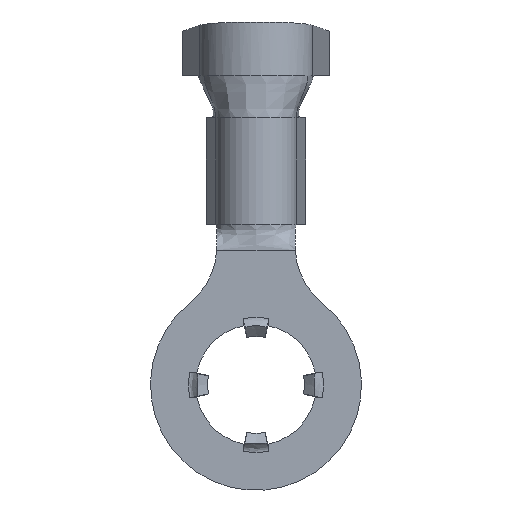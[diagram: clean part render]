
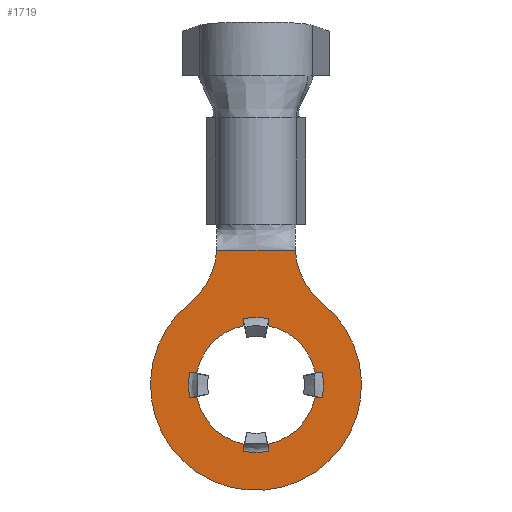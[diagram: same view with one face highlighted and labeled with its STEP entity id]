
A CAD part, front view. The second image highlights one B-rep face of the part: STEP entity #1719.
In plain terms, the highlighted planar face has unit normal (0, -1, 0).
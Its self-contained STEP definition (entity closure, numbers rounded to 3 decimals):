
#9=CARTESIAN_POINT('',(-2.357,-2.05,-10.55));
#10=CARTESIAN_POINT('',(-2.414,-2.05,-10.846));
#11=CARTESIAN_POINT('',(-2.414,-2.05,-11.154));
#12=CARTESIAN_POINT('',(-2.357,-2.05,-11.45));
#14=DIRECTION('',(-1.,0.,0.));
#15=VECTOR('',#14,0.255);
#16=CARTESIAN_POINT('',(-2.102,-2.05,-11.45));
#17=LINE('',#16,#15);
#18=CARTESIAN_POINT('',(0.,-2.05,-11.));
#19=DIRECTION('',(0.,-1.,0.));
#20=DIRECTION('',(-0.978,0.,-0.209));
#21=AXIS2_PLACEMENT_3D('',#18,#19,#20);
#23=DIRECTION('',(0.,0.,1.));
#24=VECTOR('',#23,0.255);
#25=CARTESIAN_POINT('',(-0.45,-2.05,-13.357));
#26=LINE('',#25,#24);
#27=CARTESIAN_POINT('',(-0.45,-2.05,-13.357));
#28=CARTESIAN_POINT('',(-0.154,-2.05,-13.414));
#29=CARTESIAN_POINT('',(0.154,-2.05,-13.414));
#30=CARTESIAN_POINT('',(0.45,-2.05,-13.357));
#32=DIRECTION('',(0.,0.,-1.));
#33=VECTOR('',#32,0.255);
#34=CARTESIAN_POINT('',(0.45,-2.05,-13.102));
#35=LINE('',#34,#33);
#36=CARTESIAN_POINT('',(0.,-2.05,-11.));
#37=DIRECTION('',(0.,-1.,0.));
#38=DIRECTION('',(0.209,0.,-0.978));
#39=AXIS2_PLACEMENT_3D('',#36,#37,#38);
#41=DIRECTION('',(-1.,0.,0.));
#42=VECTOR('',#41,0.255);
#43=CARTESIAN_POINT('',(2.357,-2.05,-11.45));
#44=LINE('',#43,#42);
#45=CARTESIAN_POINT('',(2.357,-2.05,-11.45));
#46=CARTESIAN_POINT('',(2.414,-2.05,-11.154));
#47=CARTESIAN_POINT('',(2.414,-2.05,-10.846));
#48=CARTESIAN_POINT('',(2.357,-2.05,-10.55));
#50=DIRECTION('',(1.,0.,0.));
#51=VECTOR('',#50,0.255);
#52=CARTESIAN_POINT('',(2.102,-2.05,-10.55));
#53=LINE('',#52,#51);
#54=CARTESIAN_POINT('',(0.,-2.05,-11.));
#55=DIRECTION('',(0.,-1.,0.));
#56=DIRECTION('',(0.978,0.,0.209));
#57=AXIS2_PLACEMENT_3D('',#54,#55,#56);
#59=DIRECTION('',(0.,0.,-1.));
#60=VECTOR('',#59,0.255);
#61=CARTESIAN_POINT('',(0.45,-2.05,-8.643));
#62=LINE('',#61,#60);
#63=CARTESIAN_POINT('',(0.45,-2.05,-8.643));
#64=CARTESIAN_POINT('',(0.154,-2.05,-8.586));
#65=CARTESIAN_POINT('',(-0.154,-2.05,-8.586));
#66=CARTESIAN_POINT('',(-0.45,-2.05,-8.643));
#68=DIRECTION('',(0.,0.,1.));
#69=VECTOR('',#68,0.255);
#70=CARTESIAN_POINT('',(-0.45,-2.05,-8.898));
#71=LINE('',#70,#69);
#72=CARTESIAN_POINT('',(0.,-2.05,-11.));
#73=DIRECTION('',(0.,-1.,0.));
#74=DIRECTION('',(-0.209,0.,0.978));
#75=AXIS2_PLACEMENT_3D('',#72,#73,#74);
#77=DIRECTION('',(1.,0.,0.));
#78=VECTOR('',#77,0.255);
#79=CARTESIAN_POINT('',(-2.357,-2.05,-10.55));
#80=LINE('',#79,#78);
#81=CARTESIAN_POINT('',(3.9,-2.05,-6.116));
#82=DIRECTION('',(0.,-1.,0.));
#83=DIRECTION('',(-0.999,0.,-0.04));
#84=AXIS2_PLACEMENT_3D('',#81,#82,#83);
#86=CARTESIAN_POINT('',(0.,-2.05,-11.));
#87=DIRECTION('',(0.,1.,0.));
#88=DIRECTION('',(0.624,0.,0.781));
#89=AXIS2_PLACEMENT_3D('',#86,#87,#88);
#91=CARTESIAN_POINT('',(-3.9,-2.05,-6.116));
#92=DIRECTION('',(0.,-1.,0.));
#93=DIRECTION('',(0.624,0.,-0.781));
#94=AXIS2_PLACEMENT_3D('',#91,#92,#93);
#96=DIRECTION('',(1.,0.,0.));
#97=VECTOR('',#96,2.804);
#98=CARTESIAN_POINT('',(-1.402,-2.05,-6.216));
#99=LINE('',#98,#97);
#1390=CARTESIAN_POINT('',(2.34,-2.05,-8.07));
#1391=CARTESIAN_POINT('',(-2.34,-2.05,-8.07));
#1392=VERTEX_POINT('',#1390);
#1393=VERTEX_POINT('',#1391);
#1398=CARTESIAN_POINT('',(1.402,-2.05,-6.216));
#1399=VERTEX_POINT('',#1398);
#1400=CARTESIAN_POINT('',(-1.402,-2.05,-6.216));
#1401=VERTEX_POINT('',#1400);
#1545=CARTESIAN_POINT('',(0.45,-2.05,-13.102));
#1546=CARTESIAN_POINT('',(0.45,-2.05,-13.357));
#1547=VERTEX_POINT('',#1545);
#1548=VERTEX_POINT('',#1546);
#1549=CARTESIAN_POINT('',(-0.45,-2.05,-13.357));
#1550=CARTESIAN_POINT('',(-0.45,-2.05,-13.102));
#1551=VERTEX_POINT('',#1549);
#1552=VERTEX_POINT('',#1550);
#1553=CARTESIAN_POINT('',(-2.102,-2.05,-11.45));
#1554=CARTESIAN_POINT('',(-2.357,-2.05,-11.45));
#1555=VERTEX_POINT('',#1553);
#1556=VERTEX_POINT('',#1554);
#1557=CARTESIAN_POINT('',(-2.357,-2.05,-10.55));
#1558=CARTESIAN_POINT('',(-2.102,-2.05,-10.55));
#1559=VERTEX_POINT('',#1557);
#1560=VERTEX_POINT('',#1558);
#1561=CARTESIAN_POINT('',(2.102,-2.05,-10.55));
#1562=CARTESIAN_POINT('',(2.357,-2.05,-10.55));
#1563=VERTEX_POINT('',#1561);
#1564=VERTEX_POINT('',#1562);
#1565=CARTESIAN_POINT('',(2.357,-2.05,-11.45));
#1566=CARTESIAN_POINT('',(2.102,-2.05,-11.45));
#1567=VERTEX_POINT('',#1565);
#1568=VERTEX_POINT('',#1566);
#1593=CARTESIAN_POINT('',(0.45,-2.05,-8.898));
#1595=VERTEX_POINT('',#1593);
#1597=CARTESIAN_POINT('',(-0.45,-2.05,-8.898));
#1599=VERTEX_POINT('',#1597);
#1605=VERTEX_POINT('',#63);
#1606=VERTEX_POINT('',#66);
#1671=CARTESIAN_POINT('',(0.,-2.05,-11.));
#1672=DIRECTION('',(0.,1.,0.));
#1673=DIRECTION('',(0.,0.,-1.));
#1674=AXIS2_PLACEMENT_3D('',#1671,#1672,#1673);
#1675=PLANE('',#1674);
#1677=ORIENTED_EDGE('',*,*,#1676,.T.);
#1679=ORIENTED_EDGE('',*,*,#1678,.T.);
#1681=ORIENTED_EDGE('',*,*,#1680,.T.);
#1683=ORIENTED_EDGE('',*,*,#1682,.T.);
#1684=EDGE_LOOP('',(#1677,#1679,#1681,#1683));
#1685=FACE_OUTER_BOUND('',#1684,.F.);
#1687=ORIENTED_EDGE('',*,*,#1686,.T.);
#1689=ORIENTED_EDGE('',*,*,#1688,.F.);
#1691=ORIENTED_EDGE('',*,*,#1690,.T.);
#1693=ORIENTED_EDGE('',*,*,#1692,.F.);
#1694=ORIENTED_EDGE('',*,*,#1660,.T.);
#1696=ORIENTED_EDGE('',*,*,#1695,.F.);
#1698=ORIENTED_EDGE('',*,*,#1697,.T.);
#1700=ORIENTED_EDGE('',*,*,#1699,.F.);
#1702=ORIENTED_EDGE('',*,*,#1701,.T.);
#1704=ORIENTED_EDGE('',*,*,#1703,.F.);
#1706=ORIENTED_EDGE('',*,*,#1705,.T.);
#1708=ORIENTED_EDGE('',*,*,#1707,.F.);
#1710=ORIENTED_EDGE('',*,*,#1709,.T.);
#1712=ORIENTED_EDGE('',*,*,#1711,.F.);
#1714=ORIENTED_EDGE('',*,*,#1713,.T.);
#1716=ORIENTED_EDGE('',*,*,#1715,.F.);
#1717=EDGE_LOOP('',(#1687,#1689,#1691,#1693,#1694,#1696,#1698,#1700,#1702,#1704,
#1706,#1708,#1710,#1712,#1714,#1716));
#1718=FACE_BOUND('',#1717,.F.);
#1719=ADVANCED_FACE('',(#1685,#1718),#1675,.F.);
#13=B_SPLINE_CURVE_WITH_KNOTS('',3,(#9,#10,#11,#12),.UNSPECIFIED.,.F.,.F.,(4,4),
(0.,1.),.UNSPECIFIED.);
#22=CIRCLE('',#21,2.15);
#31=B_SPLINE_CURVE_WITH_KNOTS('',3,(#27,#28,#29,#30),.UNSPECIFIED.,.F.,.F.,(4,
4),(0.,1.),.UNSPECIFIED.);
#40=CIRCLE('',#39,2.15);
#49=B_SPLINE_CURVE_WITH_KNOTS('',3,(#45,#46,#47,#48),.UNSPECIFIED.,.F.,.F.,(4,
4),(0.,1.),.UNSPECIFIED.);
#58=CIRCLE('',#57,2.15);
#67=B_SPLINE_CURVE_WITH_KNOTS('',3,(#63,#64,#65,#66),.UNSPECIFIED.,.F.,.F.,(4,
4),(0.,1.),.UNSPECIFIED.);
#76=CIRCLE('',#75,2.15);
#85=CIRCLE('',#84,2.5);
#90=CIRCLE('',#89,3.75);
#95=CIRCLE('',#94,2.5);
#1660=EDGE_CURVE('',#1551,#1548,#31,.T.);
#1676=EDGE_CURVE('',#1399,#1392,#85,.T.);
#1678=EDGE_CURVE('',#1392,#1393,#90,.T.);
#1680=EDGE_CURVE('',#1393,#1401,#95,.T.);
#1682=EDGE_CURVE('',#1401,#1399,#99,.T.);
#1686=EDGE_CURVE('',#1559,#1556,#13,.T.);
#1688=EDGE_CURVE('',#1555,#1556,#17,.T.);
#1690=EDGE_CURVE('',#1555,#1552,#22,.T.);
#1692=EDGE_CURVE('',#1551,#1552,#26,.T.);
#1695=EDGE_CURVE('',#1547,#1548,#35,.T.);
#1697=EDGE_CURVE('',#1547,#1568,#40,.T.);
#1699=EDGE_CURVE('',#1567,#1568,#44,.T.);
#1701=EDGE_CURVE('',#1567,#1564,#49,.T.);
#1703=EDGE_CURVE('',#1563,#1564,#53,.T.);
#1705=EDGE_CURVE('',#1563,#1595,#58,.T.);
#1707=EDGE_CURVE('',#1605,#1595,#62,.T.);
#1709=EDGE_CURVE('',#1605,#1606,#67,.T.);
#1711=EDGE_CURVE('',#1599,#1606,#71,.T.);
#1713=EDGE_CURVE('',#1599,#1560,#76,.T.);
#1715=EDGE_CURVE('',#1559,#1560,#80,.T.);
